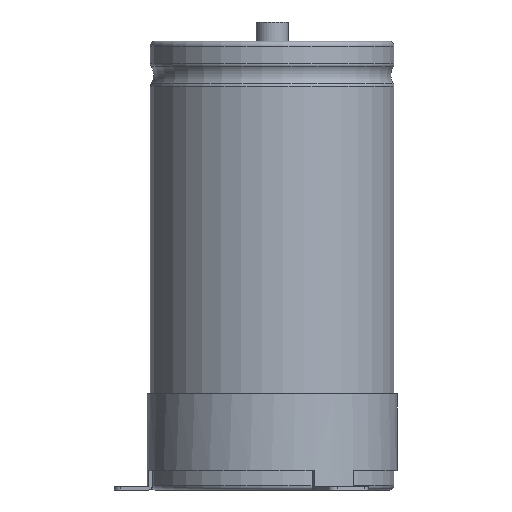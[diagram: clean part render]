
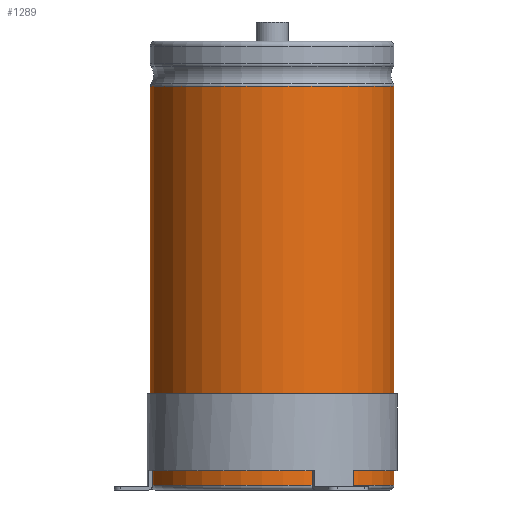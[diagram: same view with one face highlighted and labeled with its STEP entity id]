
A CAD part, front view. The second image highlights one B-rep face of the part: STEP entity #1289.
In plain terms, the highlighted cylindrical face has radius 38.1 mm (diameter 76.2 mm), a partial arc.
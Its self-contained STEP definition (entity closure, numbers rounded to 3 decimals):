
#233=LINE('',#6601,#447);
#234=LINE('',#6605,#448);
#447=VECTOR('',#5224,1.);
#448=VECTOR('',#5227,1.);
#695=FACE_OUTER_BOUND('',#1741,.T.);
#1289=ADVANCED_FACE('',(#695),#1519,.T.);
#1519=CYLINDRICAL_SURFACE('',#4585,38.1);
#1741=EDGE_LOOP('',(#2147,#2148,#2149,#2150));
#2147=ORIENTED_EDGE('',*,*,#3702,.T.);
#2148=ORIENTED_EDGE('',*,*,#3703,.T.);
#2149=ORIENTED_EDGE('',*,*,#3704,.F.);
#2150=ORIENTED_EDGE('',*,*,#3705,.F.);
#3274=VERTEX_POINT('',#6594);
#3276=VERTEX_POINT('',#6598);
#3277=VERTEX_POINT('',#6602);
#3278=VERTEX_POINT('',#6604);
#3702=EDGE_CURVE('',#3274,#3276,#4267,.T.);
#3703=EDGE_CURVE('',#3276,#3277,#233,.T.);
#3704=EDGE_CURVE('',#3278,#3277,#4268,.T.);
#3705=EDGE_CURVE('',#3274,#3278,#234,.T.);
#4267=CIRCLE('',#4582,38.1);
#4268=CIRCLE('',#4584,38.1);
#4582=AXIS2_PLACEMENT_3D('',#6599,#5220,#5221);
#4584=AXIS2_PLACEMENT_3D('',#6603,#5225,#5226);
#4585=AXIS2_PLACEMENT_3D('',#6606,#5228,#5229);
#5220=DIRECTION('',(0.,0.,-1.));
#5221=DIRECTION('',(0.,1.,0.));
#5224=DIRECTION('',(0.,0.,-1.));
#5225=DIRECTION('',(0.,0.,-1.));
#5226=DIRECTION('',(0.,1.,0.));
#5227=DIRECTION('',(0.,0.,-1.));
#5228=DIRECTION('',(0.,0.,-1.));
#5229=DIRECTION('',(0.,1.,0.));
#6594=CARTESIAN_POINT('',(3.983,37.891,125.9));
#6598=CARTESIAN_POINT('',(-3.983,37.891,125.9));
#6599=CARTESIAN_POINT('',(0.,0.,125.9));
#6601=CARTESIAN_POINT('',(-3.983,37.891,125.9));
#6602=CARTESIAN_POINT('',(-3.983,37.891,1.5));
#6603=CARTESIAN_POINT('',(0.,0.,1.5));
#6604=CARTESIAN_POINT('',(3.983,37.891,1.5));
#6605=CARTESIAN_POINT('',(3.983,37.891,125.9));
#6606=CARTESIAN_POINT('',(0.,0.,0.));
